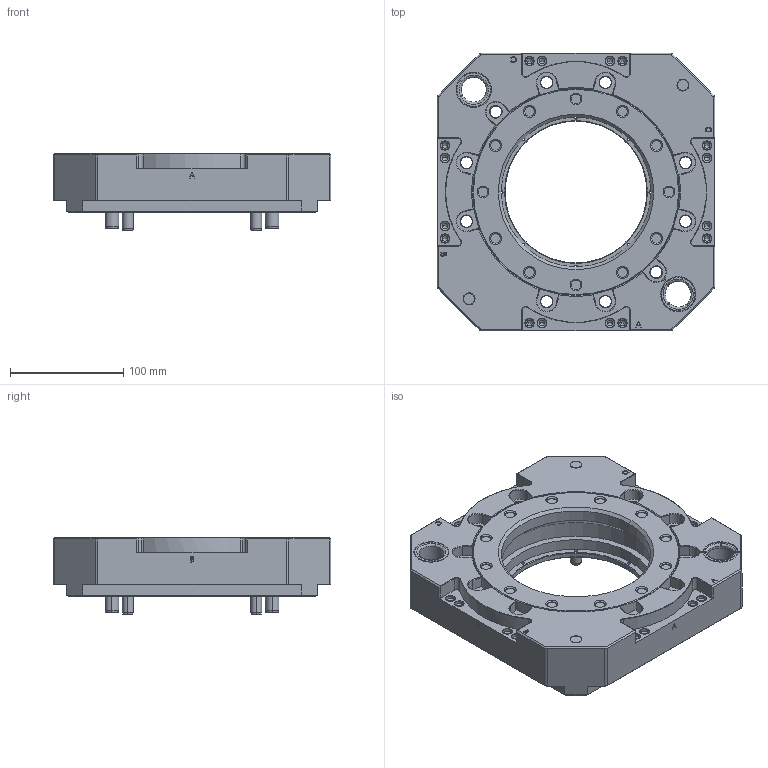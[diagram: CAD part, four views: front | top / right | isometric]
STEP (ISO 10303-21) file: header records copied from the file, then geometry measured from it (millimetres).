
FILE_DESCRIPTION (( 'STEP AP203' ), '1' );
FILE_NAME ('QCA-S500G.STEP', '2024-03-20T03:08:57', ( '微软用户' ), ( '微软中国' ), 'SwSTEP 2.0', 'SolidWorks 2018', '' );
FILE_SCHEMA (( 'CONFIG_CONTROL_DESIGN' ));
Length unit declared in the file: millimetre
Products named in the file (1): QCA-S500G
Bounding box: 245 x 245 x 67.68 mm (x, y, z)
Volume: 1881001.7 mm3; surface area: 235540.1 mm2
Topology: 1 solids, 26 shells, 1412 faces, 3284 edges, 1957 vertices
Faces by surface type: plane 509, cone 450, cylinder 388, bspline 65
Entity records: 42037 total; most frequent: CARTESIAN_POINT 9641, DIRECTION 7089, ORIENTED_EDGE 6416, EDGE_CURVE 3208, AXIS2_PLACEMENT_3D 2677, VERTEX_POINT 1957, LINE 1735, VECTOR 1735
